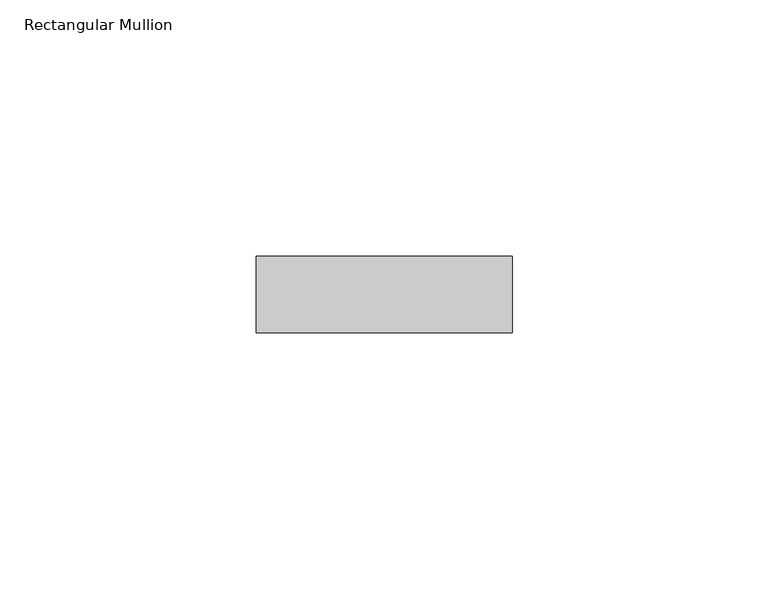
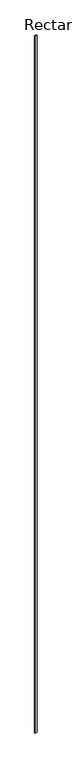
"""IFC4 building model written with IfcOpenShell, lengths in millimetres: member geometry, Rectangular Mullion : Ripa."""

from ifc_helpers import new_model, si_unit, frame, origin, place, context, project, spatial, polyline, outline, extrude, source, transform, mapped, element, save


def rectangular_mullion_cefe3f92(model_context):
    return source(origin(), model_context, "Body", "SweptSolid", [
        extrude(outline(polyline([(-50.0, -75.0), (-50.0, -60.0), (0.0, -60.0), (0.0, -75.0), (-50.0, -75.0)])), frame((0.0, 0.0, -19200.0), z_axis=(0.0, 0.0, 1.0), x_axis=(1.0, 0.0, 0.0)), (0.0, 0.0, 1.0), 19200.0),
    ])


if __name__ == "__main__":
    model = new_model("IFC4")
    model_context = context("Model", 3, world=origin())
    ifc_project = project(units=[si_unit("LENGTHUNIT", "METRE", prefix="MILLI")], contexts=[model_context])
    site = spatial("IfcSite", under=ifc_project)
    building = spatial("IfcBuilding", under=site)
    placement = place(None, origin())
    rectangular_mullion_shape = rectangular_mullion_cefe3f92(model_context)
    element("IfcMember", 1, ObjectType="Rectangular Mullion : Ripa", at=placement, inside=building, context=model_context, shape_type="MappedRepresentation", body=[
        mapped(rectangular_mullion_shape, transform((0.0, 0.0, 0.0), x_axis=(1.0, 0.0, 0.0), y_axis=(0.0, 1.0, 0.0), z_axis=(0.0, 0.0, 1.0))),
    ])
    save(model, "model.ifc")
